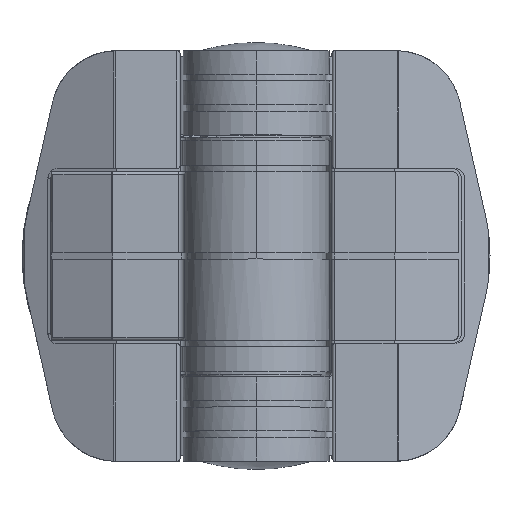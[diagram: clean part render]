
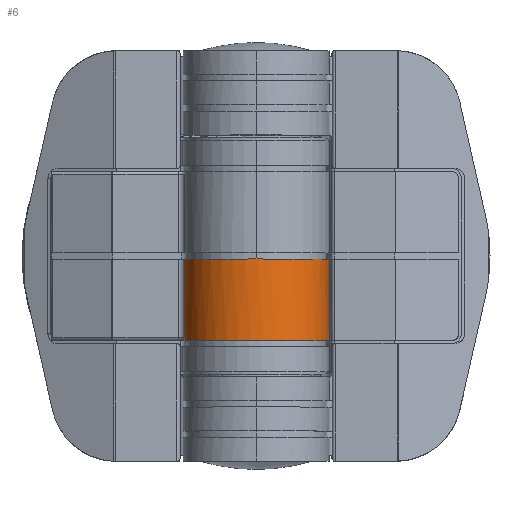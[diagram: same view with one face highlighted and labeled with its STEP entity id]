
A CAD part, top view. The second image highlights one B-rep face of the part: STEP entity #6.
In plain terms, the highlighted cylindrical face has radius 8.89 mm (diameter 17.78 mm), a partial arc.
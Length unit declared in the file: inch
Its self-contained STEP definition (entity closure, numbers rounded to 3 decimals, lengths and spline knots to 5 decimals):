
#1 = ORIENTED_EDGE ( 'NONE', *, *, #22101, .T. ) ;
#2 = EDGE_LOOP ( 'NONE', ( #1, #4, #15171, #15172, #15174 ) ) ;
#4 = ORIENTED_EDGE ( 'NONE', *, *, #22107, .T. ) ;
#6 = ADVANCED_FACE ( 'NONE', ( #23636 ), #23634, .T. ) ;
#10912 = CARTESIAN_POINT ( 'NONE',  ( 0.00007, -0.405, 0. ) ) ;
#10913 = AXIS2_PLACEMENT_3D ( 'NONE', #10912, #10974, #10973 ) ;
#10914 = CIRCLE ( 'NONE', #10913, 0.35 ) ;
#10921 = CARTESIAN_POINT ( 'NONE',  ( 0.00007, -0.015, -0.35 ) ) ;
#10922 = DIRECTION ( 'NONE',  ( 0., 0., -1. ) ) ;
#10923 = DIRECTION ( 'NONE',  ( 0., -1., 0. ) ) ;
#10924 = CARTESIAN_POINT ( 'NONE',  ( 0.00007, -0.015, 0. ) ) ;
#10925 = AXIS2_PLACEMENT_3D ( 'NONE', #10924, #10923, #10922 ) ;
#10926 = CIRCLE ( 'NONE', #10925, 0.35 ) ;
#10927 = CARTESIAN_POINT ( 'NONE',  ( -0.34209, -0.015, 0.07368 ) ) ;
#10971 = CARTESIAN_POINT ( 'NONE',  ( 0.00007, -0.405, -0.35 ) ) ;
#10972 = CARTESIAN_POINT ( 'NONE',  ( -0.33387, -0.405, 0.10481 ) ) ;
#10973 = DIRECTION ( 'NONE',  ( 0., 0., -1. ) ) ;
#10974 = DIRECTION ( 'NONE',  ( 0., 1., 0. ) ) ;
#11015 = DIRECTION ( 'NONE',  ( 0., -1., 0. ) ) ;
#11016 = VECTOR ( 'NONE', #11015, 39.37008 ) ;
#11017 = CARTESIAN_POINT ( 'NONE',  ( -0.34209, -0.30075, 0.07368 ) ) ;
#11018 = LINE ( 'NONE', #11017, #11016 ) ;
#11019 = CARTESIAN_POINT ( 'NONE',  ( -0.34209, -0.39, 0.07368 ) ) ;
#11055 = CARTESIAN_POINT ( 'NONE',  ( -0.33387, -0.405, 0.10481 ) ) ;
#11056 = CARTESIAN_POINT ( 'NONE',  ( -0.33567, -0.405, 0.09907 ) ) ;
#11057 = CARTESIAN_POINT ( 'NONE',  ( -0.33729, -0.40284, 0.09336 ) ) ;
#11058 = CARTESIAN_POINT ( 'NONE',  ( -0.33996, -0.39714, 0.08312 ) ) ;
#11059 = CARTESIAN_POINT ( 'NONE',  ( -0.34107, -0.39356, 0.0784 ) ) ;
#11060 = CARTESIAN_POINT ( 'NONE',  ( -0.34209, -0.39, 0.07368 ) ) ;
#11062 = B_SPLINE_CURVE_WITH_KNOTS ( 'NONE', 3,
 ( #11060, #11059, #11058, #11057, #11056, #11055 ),
 .UNSPECIFIED., .F., .F.,
 ( 4, 2, 4 ),
 ( -0.00001, 0.00045, 0.00091 ),
 .UNSPECIFIED. ) ;
#15171 = ORIENTED_EDGE ( 'NONE', *, *, #22060, .T. ) ;
#15172 = ORIENTED_EDGE ( 'NONE', *, *, #15173, .F. ) ;
#15173 = EDGE_CURVE ( 'NONE', #22050, #22062, #24342, .T. ) ;
#15174 = ORIENTED_EDGE ( 'NONE', *, *, #22049, .T. ) ;
#22047 = VERTEX_POINT ( 'NONE', #10927 ) ;
#22049 = EDGE_CURVE ( 'NONE', #22050, #22047, #10926, .T. ) ;
#22050 = VERTEX_POINT ( 'NONE', #10921 ) ;
#22060 = EDGE_CURVE ( 'NONE', #22061, #22062, #10914, .T. ) ;
#22061 = VERTEX_POINT ( 'NONE', #10972 ) ;
#22062 = VERTEX_POINT ( 'NONE', #10971 ) ;
#22099 = VERTEX_POINT ( 'NONE', #11019 ) ;
#22101 = EDGE_CURVE ( 'NONE', #22047, #22099, #11018, .T. ) ;
#22107 = EDGE_CURVE ( 'NONE', #22099, #22061, #11062, .T. ) ;
#23630 = DIRECTION ( 'NONE',  ( 0., 0., -1. ) ) ;
#23631 = DIRECTION ( 'NONE',  ( 0., -1., 0. ) ) ;
#23632 = CARTESIAN_POINT ( 'NONE',  ( 0.00007, 0.00787, 0. ) ) ;
#23633 = AXIS2_PLACEMENT_3D ( 'NONE', #23632, #23631, #23630 ) ;
#23634 = CYLINDRICAL_SURFACE ( 'NONE', #23633, 0.35 ) ;
#23636 = FACE_OUTER_BOUND ( 'NONE', #2, .T. ) ;
#24321 = DIRECTION ( 'NONE',  ( 0., -1., 0. ) ) ;
#24322 = VECTOR ( 'NONE', #24321, 39.37008 ) ;
#24323 = CARTESIAN_POINT ( 'NONE',  ( 0.00007, 0., -0.35 ) ) ;
#24342 = LINE ( 'NONE', #24323, #24322 ) ;
